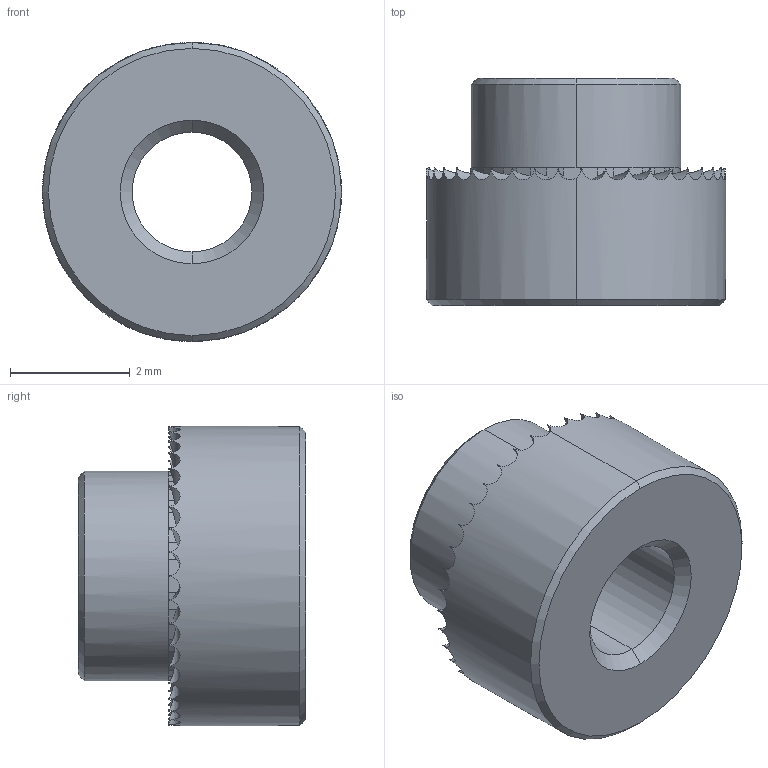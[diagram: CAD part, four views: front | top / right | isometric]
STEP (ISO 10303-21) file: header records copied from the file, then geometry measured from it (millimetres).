
FILE_DESCRIPTION (( 'STEP AP203' ), '1' );
FILE_NAME ('P0829.020-20G-ZP.step', '2019-03-21T22:08:56', ( '' ), ( '' ), 'SwSTEP 2.0', 'SolidWorks 2017', '' );
FILE_SCHEMA (( 'CONFIG_CONTROL_DESIGN' ));
Length unit declared in the file: millimetre
Products named in the file (1): P0829.020-20G-ZP
Bounding box: 5 x 3.8 x 5 mm (x, y, z)
Volume: 45.6 mm3; surface area: 108.5 mm2
Topology: 1 solids, 1 shells, 172 faces, 424 edges, 254 vertices
Faces by surface type: plane 119, cylinder 45, cone 8
Entity records: 5343 total; most frequent: CARTESIAN_POINT 1317, ORIENTED_EDGE 848, DIRECTION 825, EDGE_CURVE 424, AXIS2_PLACEMENT_3D 308, VERTEX_POINT 254, LINE 209, VECTOR 209
